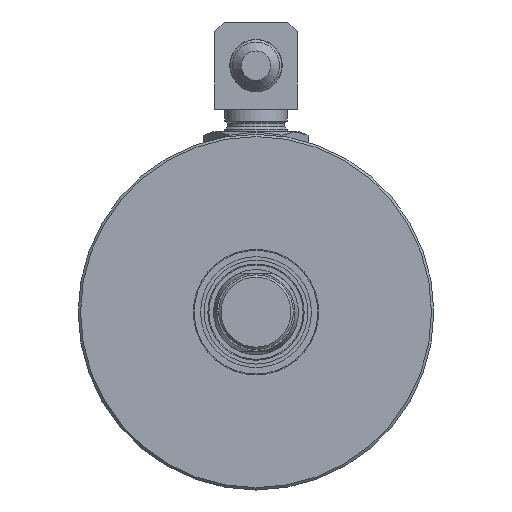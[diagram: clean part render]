
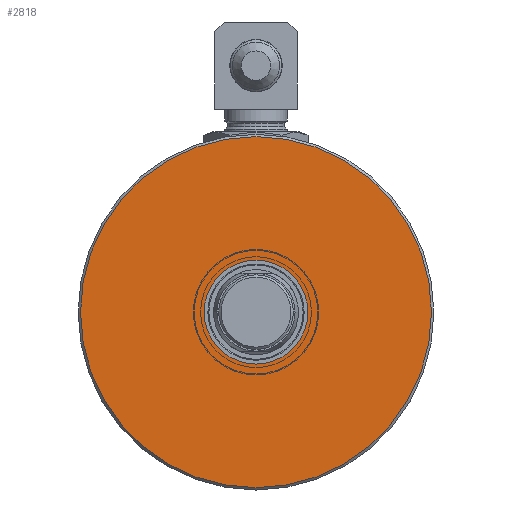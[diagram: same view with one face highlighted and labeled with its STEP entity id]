
A CAD part, left-side view. The second image highlights one B-rep face of the part: STEP entity #2818.
In plain terms, the highlighted planar face has unit normal (-1, 0, 0).
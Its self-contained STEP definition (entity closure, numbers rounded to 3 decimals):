
#129=FACE_BOUND('',#525,.T.);
#192=PLANE('',#3110);
#324=FACE_OUTER_BOUND('',#524,.T.);
#524=EDGE_LOOP('',(#2097));
#525=EDGE_LOOP('',(#2098));
#1048=CIRCLE('',#3111,37.2);
#1049=CIRCLE('',#3112,11.);
#1247=VERTEX_POINT('',#4639);
#1248=VERTEX_POINT('',#4641);
#1548=EDGE_CURVE('',#1247,#1247,#1048,.T.);
#1549=EDGE_CURVE('',#1248,#1248,#1049,.T.);
#2097=ORIENTED_EDGE('',*,*,#1548,.F.);
#2098=ORIENTED_EDGE('',*,*,#1549,.T.);
#2818=ADVANCED_FACE('',(#324,#129),#192,.F.);
#3110=AXIS2_PLACEMENT_3D('',#4638,#3722,#3723);
#3111=AXIS2_PLACEMENT_3D('',#4640,#3724,#3725);
#3112=AXIS2_PLACEMENT_3D('',#4642,#3726,#3727);
#3722=DIRECTION('center_axis',(1.,0.,0.));
#3723=DIRECTION('ref_axis',(0.,0.,1.));
#3724=DIRECTION('center_axis',(1.,0.,0.));
#3725=DIRECTION('ref_axis',(0.,1.,0.));
#3726=DIRECTION('center_axis',(1.,0.,0.));
#3727=DIRECTION('ref_axis',(0.,0.,-1.));
#4638=CARTESIAN_POINT('Origin',(-236.2,0.,0.));
#4639=CARTESIAN_POINT('',(-236.2,-37.2,0.));
#4640=CARTESIAN_POINT('Origin',(-236.2,0.,0.));
#4641=CARTESIAN_POINT('',(-236.2,0.,11.));
#4642=CARTESIAN_POINT('Origin',(-236.2,0.,0.));
